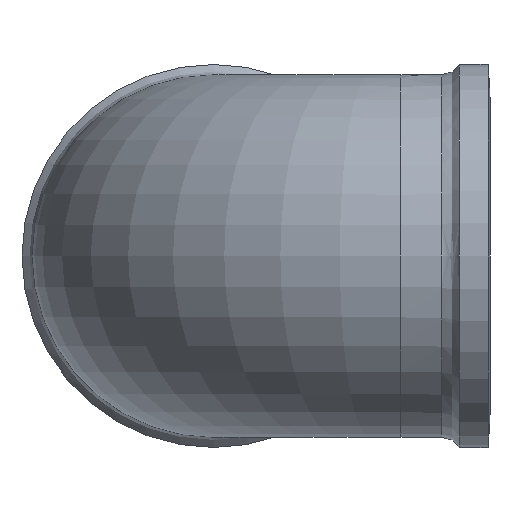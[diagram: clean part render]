
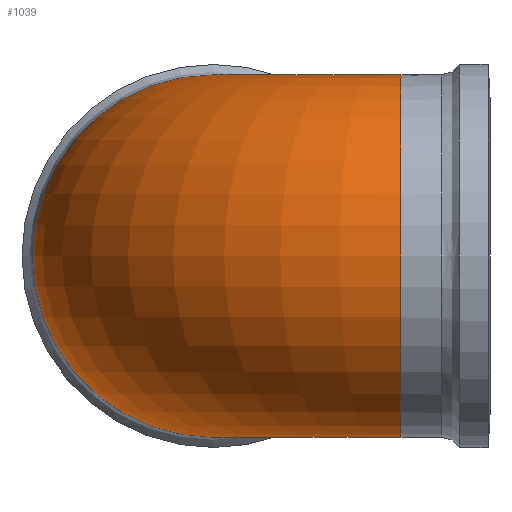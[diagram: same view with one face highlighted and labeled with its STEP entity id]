
A CAD part, left-side view. The second image highlights one B-rep face of the part: STEP entity #1039.
In plain terms, the highlighted toroidal (fillet/blend) face has major radius 65.3 mm and minor radius 63.1 mm.
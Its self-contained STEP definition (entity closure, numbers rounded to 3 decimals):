
#337=CARTESIAN_POINT('',(0.65,2.205,63.097));
#338=VERTEX_POINT('',#337);
#345=CARTESIAN_POINT('',(-1.334,0.0,63.086));
#346=VERTEX_POINT('',#345);
#347=CARTESIAN_POINT('',(-1.334,0.,63.086));
#348=CARTESIAN_POINT('',(-0.914,0.467,63.095));
#349=CARTESIAN_POINT('',(-0.497,0.93,63.099));
#350=CARTESIAN_POINT('',(-0.085,1.388,63.1));
#351=CARTESIAN_POINT('',(0.158,1.658,63.1));
#352=CARTESIAN_POINT('',(0.402,1.929,63.099));
#353=CARTESIAN_POINT('',(0.65,2.205,63.097));
#354=B_SPLINE_CURVE_WITH_KNOTS('',3,(#347,#348,#349,#350,#351,#352,#353),.UNSPECIFIED.,.F.,.U.,(4,3,4),(53.446,53.63,53.739),.UNSPECIFIED.);
#355=EDGE_CURVE('',#346,#338,#354,.T.);
#434=CARTESIAN_POINT('',(2.634,0.0,63.045));
#435=VERTEX_POINT('',#434);
#443=CARTESIAN_POINT('',(0.65,2.205,63.097));
#444=CARTESIAN_POINT('',(1.293,1.49,63.091));
#445=CARTESIAN_POINT('',(1.958,0.752,63.073));
#446=CARTESIAN_POINT('',(2.634,0.,63.045));
#447=B_SPLINE_CURVE_WITH_KNOTS('',3,(#443,#444,#445,#446),.UNSPECIFIED.,.F.,.U.,(4,4),(53.961,54.243),.UNSPECIFIED.);
#448=EDGE_CURVE('',#338,#435,#447,.T.);
#1012=CARTESIAN_POINT('',(65.3,0.,0.0));
#1013=DIRECTION('',(0.0,0.0,-1.0));
#1014=DIRECTION('',(-1.0,0.0,0.0));
#1015=AXIS2_PLACEMENT_3D('',#1012,#1013,#1014);
#1016=TOROIDAL_SURFACE('',#1015,65.3,63.1);
#1017=ORIENTED_EDGE('',*,*,#448,.T.);
#1018=CARTESIAN_POINT('',(0.0,0.0,0.0));
#1019=DIRECTION('',(0.0,-1.0,0.0));
#1020=DIRECTION('',(1.0,0.0,0.0));
#1021=AXIS2_PLACEMENT_3D('',#1018,#1019,#1020);
#1022=CIRCLE('',#1021,63.1);
#1023=EDGE_CURVE('',#346,#435,#1022,.T.);
#1024=ORIENTED_EDGE('',*,*,#1023,.F.);
#1025=ORIENTED_EDGE('',*,*,#355,.T.);
#1026=EDGE_LOOP('',(#1017,#1024,#1025));
#1027=FACE_OUTER_BOUND('',#1026,.T.);
#1028=CARTESIAN_POINT('',(65.3,128.4,0.));
#1029=VERTEX_POINT('',#1028);
#1030=CARTESIAN_POINT('',(65.3,65.3,0.0));
#1031=DIRECTION('',(-1.0,0.0,0.0));
#1032=DIRECTION('',(0.0,-1.0,0.0));
#1033=AXIS2_PLACEMENT_3D('',#1030,#1031,#1032);
#1034=CIRCLE('',#1033,63.1);
#1035=EDGE_CURVE('',#1029,#1029,#1034,.T.);
#1036=ORIENTED_EDGE('',*,*,#1035,.T.);
#1037=EDGE_LOOP('',(#1036));
#1038=FACE_BOUND('',#1037,.T.);
#1039=ADVANCED_FACE('',(#1027,#1038),#1016,.T.);
